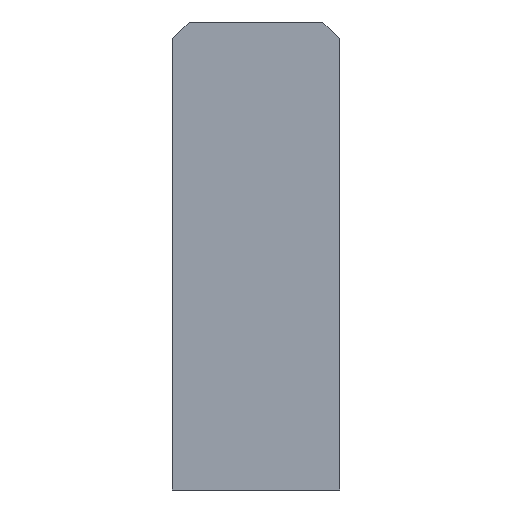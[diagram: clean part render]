
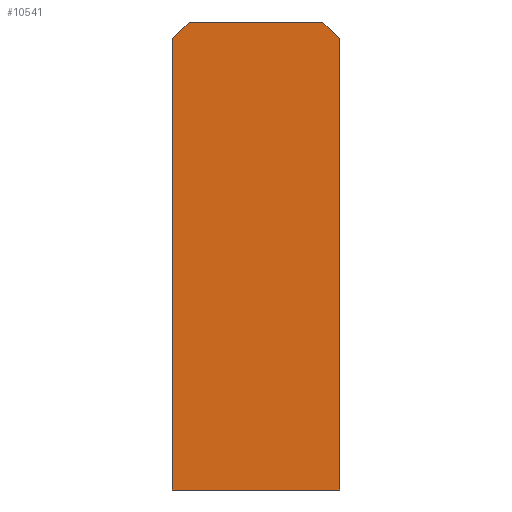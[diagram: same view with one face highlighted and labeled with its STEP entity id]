
A CAD part, left-side view. The second image highlights one B-rep face of the part: STEP entity #10541.
In plain terms, the highlighted planar face has unit normal (-1, 0, 0).
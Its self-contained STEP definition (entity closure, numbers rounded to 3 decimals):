
#1644=LINE('',#12732,#2000);
#1648=LINE('',#12739,#2004);
#1654=LINE('',#12751,#2010);
#1656=LINE('',#12755,#2012);
#1657=LINE('',#12758,#2013);
#1659=LINE('',#12761,#2015);
#2000=VECTOR('',#11751,3.592);
#2004=VECTOR('',#11757,20.32);
#2010=VECTOR('',#11767,3.592);
#2012=VECTOR('',#11771,68.58);
#2013=VECTOR('',#11774,25.4);
#2015=VECTOR('',#11778,68.58);
#2480=FACE_OUTER_BOUND('',#3242,.T.);
#3242=EDGE_LOOP('',(#6608,#6609,#6610,#6611,#6612,#6613));
#4107=VERTEX_POINT('',#12729);
#4108=VERTEX_POINT('',#12731);
#4110=VERTEX_POINT('',#12737);
#4114=VERTEX_POINT('',#12749);
#4115=VERTEX_POINT('',#12753);
#4116=VERTEX_POINT('',#12757);
#4985=EDGE_CURVE('',#4107,#4108,#1644,.T.);
#4989=EDGE_CURVE('',#4110,#4107,#1648,.T.);
#4995=EDGE_CURVE('',#4114,#4110,#1654,.T.);
#4997=EDGE_CURVE('',#4115,#4114,#1656,.T.);
#4998=EDGE_CURVE('',#4116,#4115,#1657,.T.);
#5000=EDGE_CURVE('',#4108,#4116,#1659,.T.);
#6608=ORIENTED_EDGE('',*,*,#4985,.F.);
#6609=ORIENTED_EDGE('',*,*,#4989,.F.);
#6610=ORIENTED_EDGE('',*,*,#4995,.F.);
#6611=ORIENTED_EDGE('',*,*,#4997,.F.);
#6612=ORIENTED_EDGE('',*,*,#4998,.F.);
#6613=ORIENTED_EDGE('',*,*,#5000,.F.);
#9616=PLANE('',#11350);
#10541=ADVANCED_FACE('',(#2480),#9616,.F.);
#11350=AXIS2_PLACEMENT_3D('',#12762,#11779,#11780);
#11751=DIRECTION('',(0.,-0.707,-0.707));
#11757=DIRECTION('',(0.,-1.,0.));
#11767=DIRECTION('',(0.,-0.707,0.707));
#11771=DIRECTION('',(0.,0.,1.));
#11774=DIRECTION('',(0.,1.,0.));
#11778=DIRECTION('',(0.,0.,-1.));
#11779=DIRECTION('center_axis',(1.,0.,0.));
#11780=DIRECTION('ref_axis',(0.,-1.,0.));
#12729=CARTESIAN_POINT('',(-15.558,-10.16,0.));
#12731=CARTESIAN_POINT('',(-15.558,-12.7,-2.54));
#12732=CARTESIAN_POINT('',(-15.558,-17.145,-6.985));
#12737=CARTESIAN_POINT('',(-15.558,10.16,0.));
#12739=CARTESIAN_POINT('',(-15.558,12.7,0.));
#12749=CARTESIAN_POINT('',(-15.558,12.7,-2.54));
#12751=CARTESIAN_POINT('',(-15.558,17.145,-6.985));
#12753=CARTESIAN_POINT('',(-15.558,12.7,-71.12));
#12755=CARTESIAN_POINT('',(-15.558,12.7,-71.12));
#12757=CARTESIAN_POINT('',(-15.558,-12.7,-71.12));
#12758=CARTESIAN_POINT('',(-15.558,-12.7,-71.12));
#12761=CARTESIAN_POINT('',(-15.558,-12.7,0.));
#12762=CARTESIAN_POINT('Origin',(-15.558,0.,-35.56));
